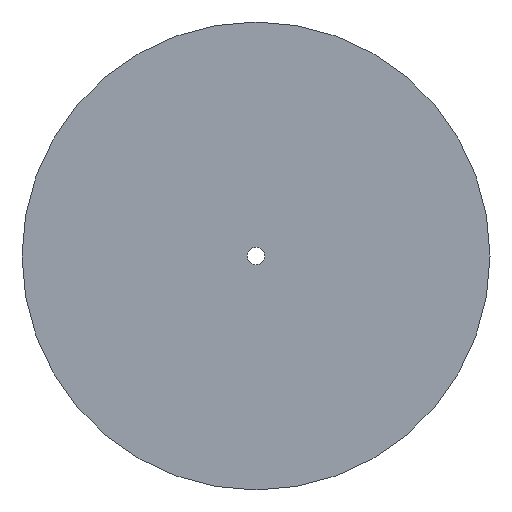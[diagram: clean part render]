
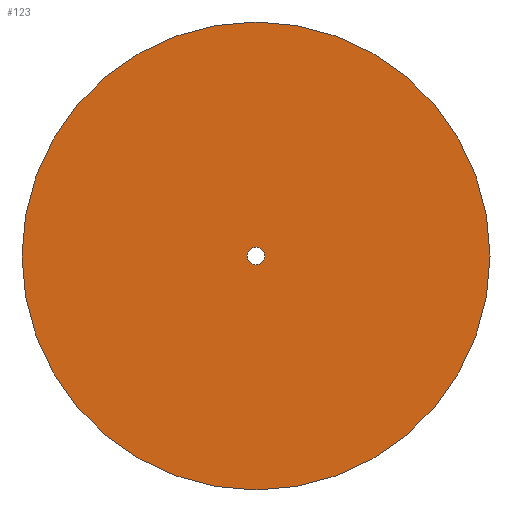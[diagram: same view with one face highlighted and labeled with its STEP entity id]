
A CAD part, top view. The second image highlights one B-rep face of the part: STEP entity #123.
In plain terms, the highlighted planar face has unit normal (0, 0, 1).
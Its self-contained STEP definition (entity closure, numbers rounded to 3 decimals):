
#62=CARTESIAN_POINT('Vertex',(-2.852,1.558,0.)) ;
#76=CARTESIAN_POINT('Vertex',(2.852,-1.558,0.)) ;
#79=CARTESIAN_POINT('Axis2P3D Location',(0.,0.,0.)) ;
#91=CARTESIAN_POINT('Axis2P3D Location',(0.,0.,0.)) ;
#96=CARTESIAN_POINT('Axis2P3D Location',(0.,0.,0.)) ;
#100=CARTESIAN_POINT('Vertex',(87.,0.,0.)) ;
#102=CARTESIAN_POINT('Vertex',(-87.,0.,0.)) ;
#105=CARTESIAN_POINT('Axis2P3D Location',(0.,0.,0.)) ;
#114=CARTESIAN_POINT('Axis2P3D Location',(0.,0.,0.)) ;
#80=DIRECTION('Axis2P3D Direction',(0.,-0.,-1.)) ;
#92=DIRECTION('Axis2P3D Direction',(0.,0.,1.)) ;
#93=DIRECTION('Axis2P3D XDirection',(1.,0.,0.)) ;
#97=DIRECTION('Axis2P3D Direction',(0.,0.,1.)) ;
#106=DIRECTION('Axis2P3D Direction',(0.,0.,1.)) ;
#115=DIRECTION('Axis2P3D Direction',(0.,0.,1.)) ;
#81=AXIS2_PLACEMENT_3D('Circle Axis2P3D',#79,#80,$) ;
#94=AXIS2_PLACEMENT_3D('Plane Axis2P3D',#91,#92,#93) ;
#98=AXIS2_PLACEMENT_3D('Circle Axis2P3D',#96,#97,$) ;
#107=AXIS2_PLACEMENT_3D('Circle Axis2P3D',#105,#106,$) ;
#116=AXIS2_PLACEMENT_3D('Circle Axis2P3D',#114,#115,$) ;
#111=ORIENTED_EDGE('',*,*,#104,.F.) ;
#112=ORIENTED_EDGE('',*,*,#109,.F.) ;
#120=ORIENTED_EDGE('',*,*,#118,.F.) ;
#121=ORIENTED_EDGE('',*,*,#83,.F.) ;
#122=FACE_BOUND('',#119,.T.) ;
#123=ADVANCED_FACE('PartBody',(#113,#122),#95,.T.) ;
#82=CIRCLE('generated circle',#81,3.25) ;
#99=CIRCLE('generated circle',#98,87.) ;
#108=CIRCLE('generated circle',#107,87.) ;
#117=CIRCLE('generated circle',#116,3.25) ;
#83=EDGE_CURVE('',#77,#63,#82,.F.) ;
#104=EDGE_CURVE('',#101,#103,#99,.F.) ;
#109=EDGE_CURVE('',#103,#101,#108,.F.) ;
#118=EDGE_CURVE('',#63,#77,#117,.T.) ;
#110=EDGE_LOOP('',(#111,#112)) ;
#119=EDGE_LOOP('',(#120,#121)) ;
#113=FACE_OUTER_BOUND('',#110,.T.) ;
#95=PLANE('',#94) ;
#63=VERTEX_POINT('',#62) ;
#77=VERTEX_POINT('',#76) ;
#101=VERTEX_POINT('',#100) ;
#103=VERTEX_POINT('',#102) ;
